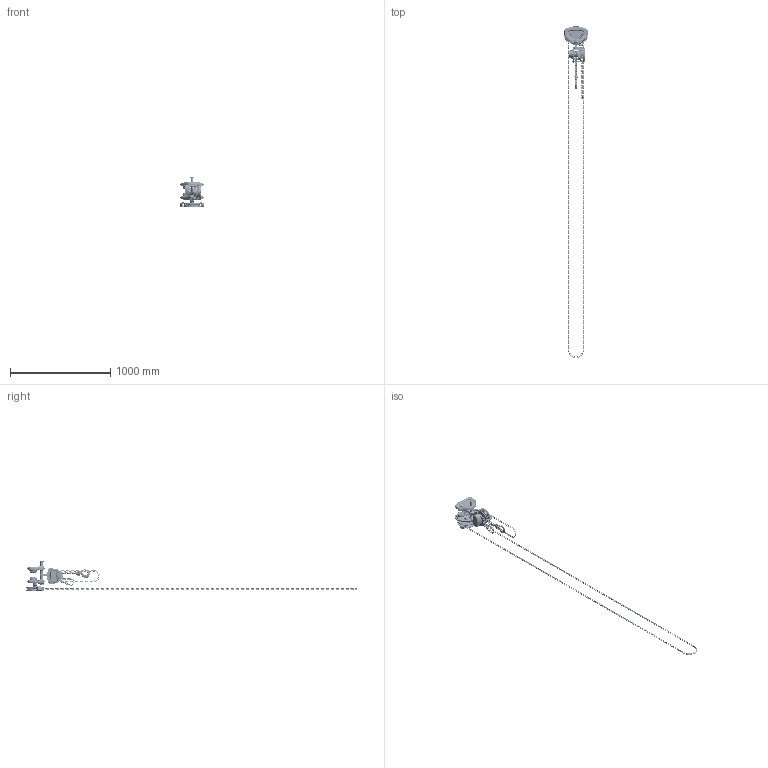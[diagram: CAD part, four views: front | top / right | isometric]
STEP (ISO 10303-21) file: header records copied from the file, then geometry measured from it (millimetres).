
FILE_DESCRIPTION (( 'STEP AP214' ), '1' );
FILE_NAME ('CB010 on GTF2010.STEP', '2026-08-17T18:39:08', ( '' ), ( '' ), 'SwSTEP 2.0', 'SolidWorks 2026', '' );
FILE_SCHEMA (( 'AUTOMOTIVE_DESIGN' ));
Length unit declared in the file: inch
Products named in the file (63): C3BA005-61012; M3163010; GTF2010_STANDARD SUSPENSION SHAFT (2.28" ~ 5.00"); 9009423_9009423; M3116010; T6GA0109113; M3102010; T6G123010; CB010 on GTF2010; CF071010; C3BA005-91711; M3161010; 6302Z BEARING; T6GA0109126; 9047115_9047115; M3101010; C3BA010-91042; C3BA010-90312; C3BA005-91731; T6GA0109102; T6G5101010; HCCF005; HCCF005 for GT2010; T6G5102010; M3041010; HCCF005 FOR CB015; MS104010; 9093424_9093424; T6G800010G; T6GA0109111; T6G5112010; CB010_Less Top Hook; 9012711_9012711; C3BA005-91011; L4082090_L4082090; M3800010; T6GA0109125; T6GC0109128; M2049010; 9009411_9009411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
Assembly tree (434 placements, depth 5):
  CB010 on GTF2010
    GTF2010_STANDARD SUSPENSION SHAFT (2.28" ~ 5.00")
      T6G5112010
        T6GA0109112
        T6GA0109113
        T6GA0109103  x2
      T6G5111010
        T6GA0109111
        T6GA0109113
        T6GA0109103  x2
        T6GC0109128
      T6G5101010  x2
        T6GA0109102
        6302Z BEARING
      T6G5102010  x2
        T6GA0109101
        6302Z BEARING
      MS104010  x4
      9047115_9047115  x4
      T6G800010G
      T7G115010
      T7G117010
      T6G156010  x2
      9009423_9009423  x3
      T6G5121010
        T6GA0109125
        T6GA0109126
      T6G123010
      L4082090_L4082090
      T7GC121010
      HCCF005 for GT2010
        HCCF005  x270
      HCCF005  x2
      9012515_9012515
    T7GC004010
    CB010_Less Top Hook
      M3171005
        C3BA005-91711
        C3BA005-91731  x2
      M3101010
        C3BA005-61012
          C3BA005-91011
          C3BA005-91722
        C3BA010-91042  x3
      M3115005
      M3102010
        C3BA010-91021
      C3BA010-91031
      9012711_9012711  x6
      9093424_9093424  x6
      M3163010
      M3021A010
        C3BA010-90312  x2
        C3BA010-90011
        CF071010
      HCCF005 FOR CB015
        HCCF005  x44
      M3041010
      M2049010
      9009411_9009411
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Bounding box: 247.13 x 3319.02 x 309.21 mm (x, y, z)
Volume: 2575461.4 mm3; surface area: 1462441.8 mm2
Topology: 418 solids, 434 shells, 12134 faces, 29792 edges, 18009 vertices
Faces by surface type: cylinder 4011, plane 3385, torus 3095, bspline 865, cone 736, sphere 42
Entity records: 491843 total; most frequent: CARTESIAN_POINT 351160, ORIENTED_EDGE 29882, DIRECTION 25960, EDGE_CURVE 14943, AXIS2_PLACEMENT_3D 10710, VERTEX_POINT 9375, EDGE_LOOP 6034, ADVANCED_FACE 5747
